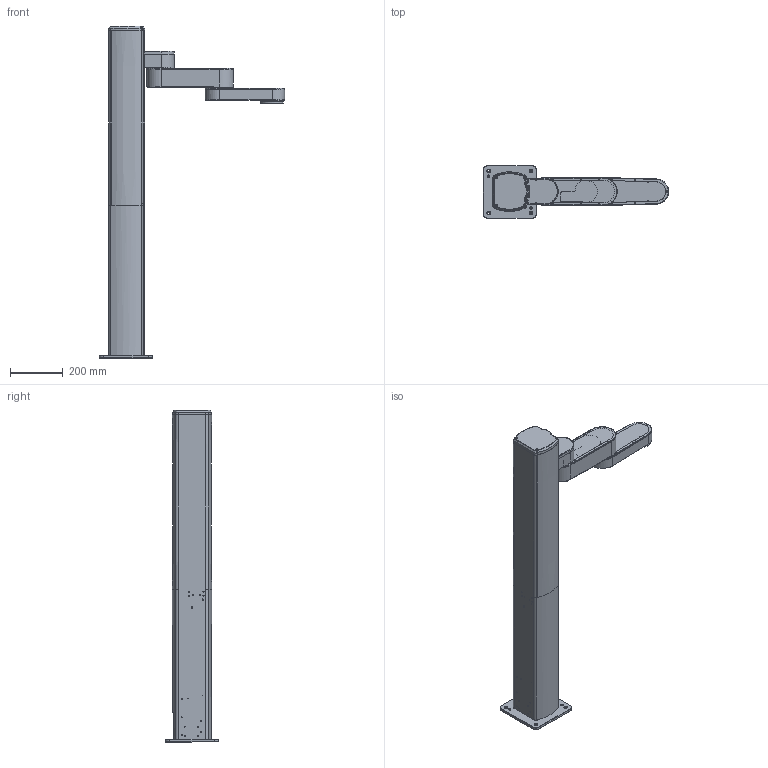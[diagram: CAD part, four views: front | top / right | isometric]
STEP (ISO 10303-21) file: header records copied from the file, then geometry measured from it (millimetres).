
FILE_DESCRIPTION(('CATIA V5 STEP Exchange'),'2;1');
FILE_NAME('E:\YFX工作文件\1 机械臂\9042简图\Z-Arm 9042C0 V1.1.stp','2021-08-04T06:43:46+00:00',('none'),('none'),'CATIA Version 5 Release 20 GA (IN-10)','CATIA V5 STEP AP203','none');
FILE_SCHEMA(('CONFIG_CONTROL_DESIGN'));
Products named in the file (6): 产品1; 产品5; LIANJIEBAN; 101-012-10-01-02; 101-012-10-03; 101-012-10-02
Assembly tree (27 placements, depth 4):
  产品1
    产品5
      #66
      #9273
      #11693
      LIANJIEBAN
        #16100
        #20134
      #20762
      #22951  x3
      #23879
    101-012-10-01-02
      #28286
      #31429
    101-012-10-03
      #34832
      #37090
      #38464
      #39505
    101-012-10-02
      #40285
      #42905
      #44497
      #45925
      #47821
    #48340
Bounding box: 700.5 x 200 x 1256 mm (x, y, z)
Volume: 8935447.4 mm3; surface area: 1897761.6 mm2
Topology: 22 solids, 22 shells, 1607 faces, 4237 edges, 2703 vertices
Faces by surface type: cylinder 733, plane 479, cone 254, extrusion 73, torus 51, sphere 12, bspline 5
Entity records: 52833 total; most frequent: CARTESIAN_POINT 15804, ORIENTED_EDGE 8074, DIRECTION 6216, EDGE_CURVE 4037, AXIS2_PLACEMENT_3D 2725, VERTEX_POINT 2611, VECTOR 2079, LINE 2006
